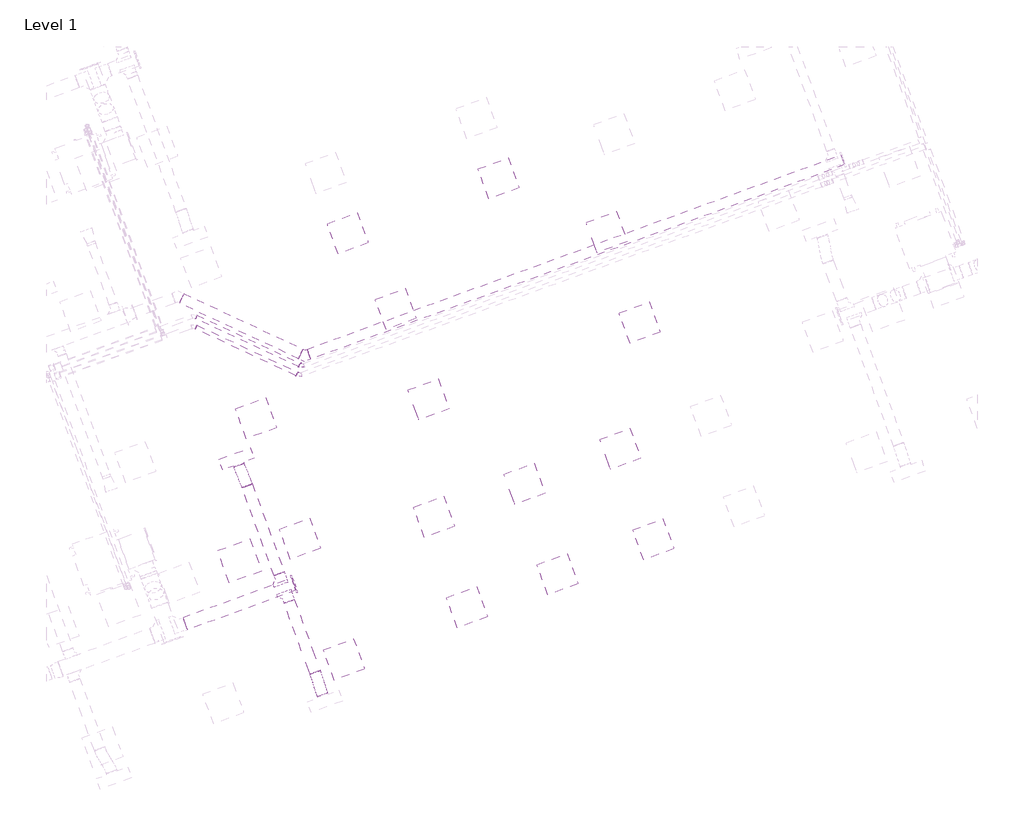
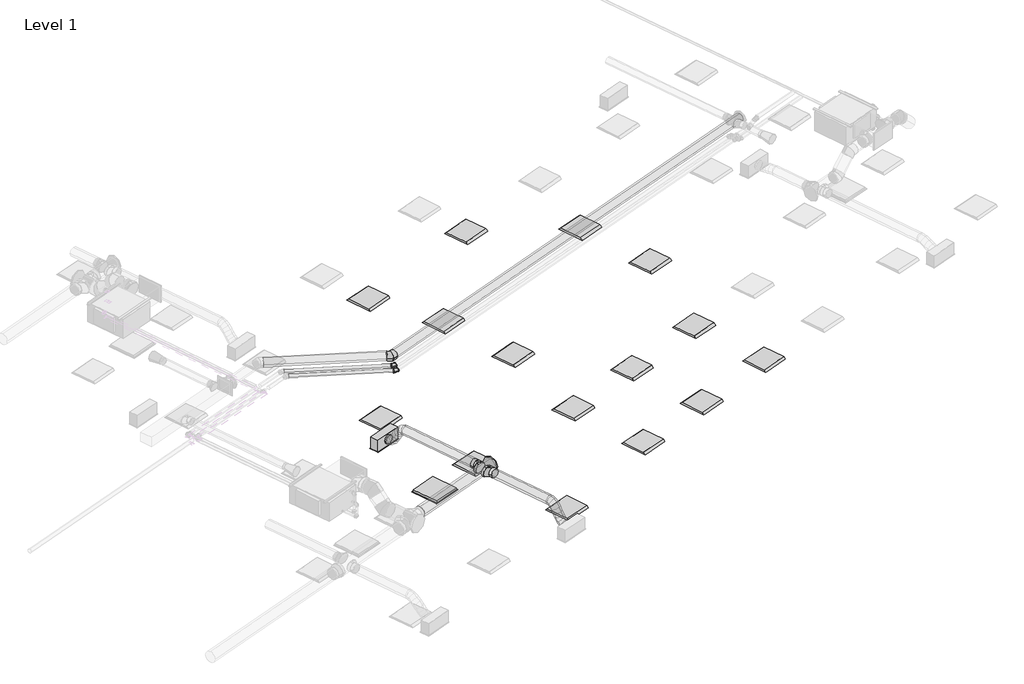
# One storey, part 24 of 30: 15 light fixtures, 7 duct segments, 4 duct fittings, 2 air terminals, 2 pipe fittings, 2 pipe segments.
"""IFC4 building model written with IfcOpenShell, lengths in millimetres."""

from ifc_helpers import new_model, si_unit, point, frame, frame_2d, origin, place, context, project, spatial, circle_curve, ellipse_curve, trimmed, segment, composite_curve, outline, extrude, transform, mapped, element, save
from ifc_brep_helpers import plane_surface, cylinder_surface, advanced_brep
from components import return_grille_rectangular_hosted_standard_7b12617c, supply_diffuser_with_plenum_linear_slot_hosted_7a86b773, dw144_round_blank_end_standard_9aa061e7, dw144_round_segmented_bend_slip_joint_standard_55afcd91, dw144_round_shoe_branch_slip_joint1_standard_2_559552f4, light_fixture_1c7c1157, light_fixture_b730b5ca, elbow_threaded_gmi_standard_9261818c

model = new_model("IFC4")

# Units and contexts
model_context = context("Model", 3, world=origin())
ifc_project = project(units=[si_unit("LENGTHUNIT", "METRE", prefix="MILLI")], contexts=[model_context])

# Site, building, storey
site = spatial("IfcSite", under=ifc_project)
building = spatial("IfcBuilding", under=site)
storey = spatial("IfcBuildingStorey", under=building, Name="Level 1", Elevation=3900.0)

# Air terminals
placement = place(None, origin())
return_grille_rectangular_hosted_standard_shape = return_grille_rectangular_hosted_standard_7b12617c(model_context)
element("IfcAirTerminal", 1, ObjectType="Return Grille - Rectangular - Hosted : Standard", at=placement, inside=storey, context=model_context, shape_type="MappedRepresentation", body=[
    mapped(return_grille_rectangular_hosted_standard_shape, transform((48064.0365319, 9235.5552547, 6500.0), x_axis=(0.939692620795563, 0.34202014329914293, 0.0), y_axis=(0.34202014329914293, -0.939692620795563, 0.0), z_axis=(0.0, 0.0, -1.0))),
])
supply_diffuser_with_plenum_linear_slot_hosted_shape = supply_diffuser_with_plenum_linear_slot_hosted_7a86b773(model_context)
element("IfcAirTerminal", 2, ObjectType="Supply Diffuser with Plenum - Linear Slot - Hosted : 24\" x 8\"-200 In Inlet  4-Slot", at=placement, inside=storey, context=model_context, shape_type="MappedRepresentation", body=[
    mapped(supply_diffuser_with_plenum_linear_slot_hosted_shape, transform((48007.2628307, 11142.0221269, 6500.0), x_axis=(0.9396926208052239, 0.3420201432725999, 0.0), y_axis=(0.3420201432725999, -0.9396926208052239, 0.0), z_axis=(0.0, 0.0, -1.0))),
])

# Duct fittings
dw144_round_blank_end_standard_shape = dw144_round_blank_end_standard_9aa061e7(model_context)
element("IfcDuctFitting", 3, ObjectType="DW144 Round Blank End : Standard", at=placement, inside=storey, context=model_context, shape_type="MappedRepresentation", body=[
    mapped(dw144_round_blank_end_standard_shape, transform((49072.7310347, 8798.1556694, 7052.2088531), x_axis=(0.9396926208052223, 0.3420201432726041, 0.0), y_axis=(-0.3420201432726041, 0.9396926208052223, 0.0), z_axis=(0.0, 0.0, 1.0))),
])
dw144_round_segmented_bend_slip_joint_standard_shape = dw144_round_segmented_bend_slip_joint_standard_55afcd91(model_context)
element("IfcDuctFitting", 4, ObjectType="DW144 Round Segmented Bend - Slip Joint : Standard", at=placement, inside=storey, context=model_context, shape_type="MappedRepresentation", body=[
    mapped(dw144_round_segmented_bend_slip_joint_standard_shape, transform((49279.3686987, 13067.8757559, 7000.0), x_axis=(0.9063077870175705, -0.42261826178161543, 0.0), y_axis=(0.42261826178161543, 0.9063077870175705, 0.0), z_axis=(0.0, 0.0, 1.0))),
])
dw144_round_shoe_branch_slip_joint1_standard_2_shape = dw144_round_shoe_branch_slip_joint1_standard_2_559552f4(model_context)
element("IfcDuctFitting", 5, ObjectType="DW144 Round Shoe Branch - Slip Joint1 : Standard 2", at=placement, inside=storey, context=model_context, shape_type="MappedRepresentation", body=[
    mapped(dw144_round_shoe_branch_slip_joint1_standard_2_shape, transform((48939.2384692, 8616.5461275, 7052.2088531), x_axis=(0.34202014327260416, -0.9396926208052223, 0.0), y_axis=(-0.9396926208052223, -0.34202014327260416, 0.0), z_axis=(0.0, 0.0, -1.0))),
])
element("IfcDuctFitting", 6, ObjectType="DW144 Round Shoe Branch - Slip Joint1 : Standard 2", at=placement, inside=storey, context=model_context, shape_type="MappedRepresentation", body=[
    mapped(dw144_round_shoe_branch_slip_joint1_standard_2_shape, transform((48853.7334333, 8851.4692827, 7052.2088531), x_axis=(-0.34202014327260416, 0.9396926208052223, 0.0), y_axis=(-0.9396926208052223, -0.34202014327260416, 0.0), z_axis=(0.0, 0.0, 1.0))),
])

# Duct segments
element("IfcDuctSegment", 7, ObjectType="DW144 Segmented Bend / Shoe Branch", at=placement, inside=storey, context=model_context, shape_type="SweptSolid", body=[
    extrude(outline(composite_curve([segment(trimmed(circle_curve(frame_2d((0.0, 125.0)), 125.0), [point((125.0, 125.0))], [point((0.0, 0.0))], False, "CARTESIAN"), True, "CONTINUOUS"), segment(trimmed(circle_curve(frame_2d((0.0, 125.0)), 125.0), [point((0.0, 0.0))], [point((-125.0, 125.0))], False, "CARTESIAN"), True, "CONTINUOUS"), segment(trimmed(circle_curve(frame_2d((0.0, 125.0)), 125.0), [point((-125.0, 125.0))], [point((0.0, 250.0))], False, "CARTESIAN"), True, "CONTINUOUS"), segment(trimmed(circle_curve(frame_2d((0.0, 125.0)), 125.0), [point((0.0, 250.0))], [point((125.0, 125.0))], False, "CARTESIAN"), True, "CONTINUOUS")], self_intersect=False)), frame((47047.5806818, 8061.0612212, 7177.2088531), z_axis=(0.9396926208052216, 0.34202014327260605, 0.0), x_axis=(0.34202014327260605, -0.9396926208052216, 0.0)), (0.0, 0.0, 1.0), 2155.1199914),
])
element("IfcDuctSegment", 8, ObjectType="DW144 Segmented Bend / Shoe Branch", at=placement, inside=storey, context=model_context, shape_type="SweptSolid", body=[
    extrude(outline(composite_curve([segment(trimmed(circle_curve(frame_2d((0.0, -100.0)), 100.0), [point((-100.0, -100.0))], [point((0.0, 0.0))], False, "CARTESIAN"), True, "CONTINUOUS"), segment(trimmed(circle_curve(frame_2d((0.0, -100.0)), 100.0), [point((0.0, 0.0))], [point((100.0, -100.0))], False, "CARTESIAN"), True, "CONTINUOUS"), segment(trimmed(circle_curve(frame_2d((0.0, -100.0)), 100.0), [point((100.0, -100.0))], [point((0.0, -200.0))], False, "CARTESIAN"), True, "CONTINUOUS"), segment(trimmed(circle_curve(frame_2d((0.0, -100.0)), 100.0), [point((0.0, -200.0))], [point((-100.0, -100.0))], False, "CARTESIAN"), True, "CONTINUOUS")], self_intersect=False)), frame((49472.7898927, 7150.6256391, 6952.2088531), z_axis=(-0.3420201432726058, 0.9396926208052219, 0.0), x_axis=(0.9396926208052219, 0.3420201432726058, 0.0)), (0.0, 0.0, 1.0), 1410.0),
])
element("IfcDuctSegment", 9, ObjectType="DW144 Segmented Bend / Shoe Branch", at=placement, inside=storey, context=model_context, shape_type="SweptSolid", body=[
    extrude(outline(composite_curve([segment(trimmed(circle_curve(frame_2d((0.0, 100.0)), 100.0), [point((99.9999999, 100.0))], [point((0.0, 0.0))], False, "CARTESIAN"), True, "CONTINUOUS"), segment(trimmed(circle_curve(frame_2d((0.0, 100.0)), 100.0), [point((0.0, 0.0))], [point((-100.0, 100.0))], False, "CARTESIAN"), True, "CONTINUOUS"), segment(trimmed(circle_curve(frame_2d((0.0, 100.0)), 100.0), [point((-100.0, 100.0))], [point((0.0, 200.0))], False, "CARTESIAN"), True, "CONTINUOUS"), segment(trimmed(circle_curve(frame_2d((0.0, 100.0)), 100.0), [point((0.0, 200.0))], [point((99.9999999, 100.0))], False, "CARTESIAN"), True, "CONTINUOUS")], self_intersect=False)), frame((48802.4304119, 8992.4231759, 7152.2088531), z_axis=(-0.3420201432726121, 0.9396926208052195, 0.0), x_axis=(0.9396926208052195, 0.3420201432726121, 0.0)), (0.0, 0.0, 1.0), 1749.637173),
])
element("IfcDuctSegment", 10, ObjectType="DW144 Segmented Bend / Shoe Branch", at=placement, inside=storey, context=model_context, shape_type="SweptSolid", body=[
    extrude(outline(composite_curve([segment(trimmed(circle_curve(frame_2d((0.0, 100.0)), 100.0), [point((100.0, 100.0))], [point((0.0, 0.0))], False, "CARTESIAN"), True, "CONTINUOUS"), segment(trimmed(circle_curve(frame_2d((0.0, 100.0)), 100.0), [point((0.0, 0.0))], [point((-99.9999999, 100.0))], False, "CARTESIAN"), True, "CONTINUOUS"), segment(trimmed(circle_curve(frame_2d((0.0, 100.0)), 100.0), [point((-99.9999999, 100.0))], [point((0.0, 200.0))], False, "CARTESIAN"), True, "CONTINUOUS"), segment(trimmed(circle_curve(frame_2d((0.0, 100.0)), 100.0), [point((0.0, 200.0))], [point((100.0, 100.0))], False, "CARTESIAN"), True, "CONTINUOUS")], self_intersect=False)), frame((49357.2153843, 13096.2096323, 7100.0), z_axis=(0.9396926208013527, 0.34202014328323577, 0.0), x_axis=(0.34202014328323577, -0.9396926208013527, 0.0)), (0.0, 0.0, 1.0), 10617.3976502),
])
element("IfcDuctSegment", 11, ObjectType="DW144 Segmented Bend / Shoe Branch", at=placement, inside=storey, context=model_context, shape_type="SweptSolid", body=[
    extrude(outline(composite_curve([segment(trimmed(circle_curve(frame_2d((0.0, 100.0)), 100.0), [point((100.0, 100.0))], [point((0.0, 0.0))], False, "CARTESIAN"), True, "CONTINUOUS"), segment(trimmed(circle_curve(frame_2d((0.0, 100.0)), 100.0), [point((0.0, 0.0))], [point((-100.0, 100.0))], False, "CARTESIAN"), True, "CONTINUOUS"), segment(trimmed(circle_curve(frame_2d((0.0, 100.0)), 100.0), [point((-100.0, 100.0))], [point((0.0, 200.0))], False, "CARTESIAN"), True, "CONTINUOUS"), segment(trimmed(circle_curve(frame_2d((0.0, 100.0)), 100.0), [point((0.0, 200.0))], [point((100.0, 100.0))], False, "CARTESIAN"), True, "CONTINUOUS")], self_intersect=False)), frame((49204.2877033, 13102.886599, 7100.0), z_axis=(-0.9063077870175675, 0.4226182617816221, 0.0), x_axis=(0.4226182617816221, 0.9063077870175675, 0.0)), (0.0, 0.0, 1.0), 2451.965434),
])
element("IfcDuctSegment", 12, ObjectType="Flex - Round", at=placement, inside=storey, context=model_context, shape_type="AdvancedBrep", body=[
    advanced_brep(
    [(49566.7591548, 7184.8276534, 7052.2088531), (49472.7898927, 7150.6256391, 6952.2088531), (49378.8206306, 7116.4236248, 7052.2088531), (49472.7898927, 7150.6256391, 7152.2088531), (49575.2669088, 7161.4527913, 7052.2088531), (49474.682573, 7145.4255426, 6952.2088531), (49386.9327094, 7094.1358714, 7052.2088531), (49487.5170452, 7110.1631201, 7152.2088531), (49707.918832, 6761.136828, 6654.4), (49613.9495699, 6726.9348137, 6754.4), (49519.9803078, 6692.7327994, 6654.4), (49613.9495699, 6726.9348137, 6554.4), (49590.1207356, 7119.0677072, 7034.7409086), (49478.8855369, 7133.4324732, 6947.2662117), (49401.1494635, 7053.568661, 7035.4900994), (49512.3846623, 7039.203895, 7122.9647962), (49608.7151444, 7063.8723428, 6989.1704029), (49490.5733359, 7098.7385855, 6918.6221758), (49419.330759, 6999.5995757, 6990.9320367), (49537.4725675, 6964.733333, 7061.4802639), (49624.2298513, 7015.46652, 6925.0520645), (49502.7970279, 7060.6007162, 6868.1047654), (49434.6486166, 6951.8079223, 6927.6272268), (49556.08144, 6906.6737261, 6984.574526), (49638.1848228, 6970.530717, 6851.8885314), (49515.9336588, 7018.3000163, 6799.2316521), (49448.5546397, 6907.0297358, 6854.7203217), (49570.8058037, 6859.2604365, 6907.377201), (49652.090846, 6925.7525305, 6778.9816263), (49530.6580225, 6970.8867267, 6722.0343271), (49462.5096112, 6862.0939328, 6781.5567886), (49583.9424347, 6816.9597366, 6838.5040877), (49667.4087035, 6877.9608771, 6715.6768164), (49549.2668951, 6912.8271198, 6645.1285892), (49478.0243182, 6813.68811, 6717.4384502), (49596.1661266, 6778.8218673, 6787.9866774), (49685.589999, 6823.9917918, 6671.1187537), (49574.3548002, 6838.3565578, 6583.6440569), (49496.6187269, 6758.4927456, 6671.8679446), (49607.8539257, 6744.1279796, 6759.3426414), (49699.8067532, 6783.4245814, 6654.4), (49599.2224174, 6767.3973327, 6554.4), (49511.4725537, 6716.1076615, 6654.4), (49612.0568895, 6732.1349102, 6754.4)],
    [
        (0, 1, circle_curve(frame((49472.7898927, 7150.6256391, 7052.2088531), z_axis=(-0.3420201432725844, 0.9396926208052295, 0.0), x_axis=(0.9396926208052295, 0.3420201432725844, 0.0)), 100.0)),
        (1, 2, circle_curve(frame((49472.7898927, 7150.6256391, 7052.2088531), z_axis=(-0.3420201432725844, 0.9396926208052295, 0.0), x_axis=(0.9396926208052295, 0.3420201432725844, 0.0)), 100.0)),
        (2, 3, circle_curve(frame((49472.7898927, 7150.6256391, 7052.2088531), z_axis=(-0.3420201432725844, 0.9396926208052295, 0.0), x_axis=(0.9396926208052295, 0.3420201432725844, 0.0)), 100.0)),
        (3, 0, circle_curve(frame((49472.7898927, 7150.6256391, 7052.2088531), z_axis=(-0.3420201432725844, 0.9396926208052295, 0.0), x_axis=(0.9396926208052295, 0.3420201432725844, 0.0)), 100.0)),
        (0, 4),
        (4, 5, ellipse_curve(frame((49481.0998091, 7127.7943313, 7052.2088531), z_axis=(-0.3308066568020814, 0.92550590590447, 0.184406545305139), x_axis=(-0.09155976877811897, 0.16300955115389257, -0.9823668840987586)), 101.7466222, 100.0)),
        (5, 1),
        (5, 6, ellipse_curve(frame((49481.0998091, 7127.7943313, 7052.2088531), z_axis=(-0.3308066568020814, 0.92550590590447, 0.184406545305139), x_axis=(-0.09155976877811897, 0.16300955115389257, -0.9823668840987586)), 101.7466222, 100.0)),
        (6, 2),
        (6, 7, ellipse_curve(frame((49481.0998091, 7127.7943313, 7052.2088531), z_axis=(-0.3308066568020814, 0.92550590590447, 0.184406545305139), x_axis=(-0.09155976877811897, 0.16300955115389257, -0.9823668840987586)), 101.7466222, 100.0)),
        (7, 3),
        (7, 4, ellipse_curve(frame((49481.0998091, 7127.7943313, 7052.2088531), z_axis=(-0.3308066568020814, 0.92550590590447, 0.184406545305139), x_axis=(-0.09155976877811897, 0.16300955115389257, -0.9823668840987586)), 101.7466222, 100.0)),
        (8, 9, circle_curve(frame((49613.9495699, 6726.9348137, 6654.4), z_axis=(0.342020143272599, -0.9396926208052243, 0.0), x_axis=(0.9396926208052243, 0.342020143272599, 0.0)), 100.0)),
        (9, 10, circle_curve(frame((49613.9495699, 6726.9348137, 6654.4), z_axis=(0.342020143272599, -0.9396926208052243, 0.0), x_axis=(0.9396926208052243, 0.342020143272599, 0.0)), 100.0)),
        (10, 11, circle_curve(frame((49613.9495699, 6726.9348137, 6654.4), z_axis=(0.342020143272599, -0.9396926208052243, 0.0), x_axis=(0.9396926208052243, 0.342020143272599, 0.0)), 100.0)),
        (11, 8, circle_curve(frame((49613.9495699, 6726.9348137, 6654.4), z_axis=(0.342020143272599, -0.9396926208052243, 0.0), x_axis=(0.9396926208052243, 0.342020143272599, 0.0)), 100.0)),
        (4, 12),
        (12, 13, ellipse_curve(frame((49495.6350996, 7086.3181841, 7035.115504), z_axis=(-0.28287056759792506, 0.8217677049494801, 0.4946534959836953), x_axis=(-0.19442344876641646, 0.45588500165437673, -0.8685438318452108)), 101.0841691, 100.0)),
        (13, 5),
        (13, 14, ellipse_curve(frame((49495.6350996, 7086.3181841, 7035.115504), z_axis=(-0.28287056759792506, 0.8217677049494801, 0.4946534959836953), x_axis=(-0.19442344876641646, 0.45588500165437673, -0.8685438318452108)), 101.0841691, 100.0)),
        (14, 6),
        (14, 15, ellipse_curve(frame((49495.6350996, 7086.3181841, 7035.115504), z_axis=(-0.28287056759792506, 0.8217677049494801, 0.4946534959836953), x_axis=(-0.19442344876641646, 0.45588500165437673, -0.8685438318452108)), 101.0841691, 100.0)),
        (15, 7),
        (15, 12, ellipse_curve(frame((49495.6350996, 7086.3181841, 7035.115504), z_axis=(-0.28287056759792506, 0.8217677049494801, 0.4946534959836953), x_axis=(-0.19442344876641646, 0.45588500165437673, -0.8685438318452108)), 101.0841691, 100.0)),
        (12, 16),
        (16, 17, ellipse_curve(frame((49514.0229517, 7031.7359593, 6990.0512198), z_axis=(-0.2220799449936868, 0.6736938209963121, 0.7048525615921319), x_axis=(-0.2617188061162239, 0.6551869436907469, -0.7086842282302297)), 100.7049109, 100.0)),
        (17, 13),
        (17, 18, ellipse_curve(frame((49514.0229517, 7031.7359593, 6990.0512198), z_axis=(-0.2220799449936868, 0.6736938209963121, 0.7048525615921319), x_axis=(-0.2617188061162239, 0.6551869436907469, -0.7086842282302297)), 100.7049109, 100.0)),
        (18, 14),
        (18, 19, ellipse_curve(frame((49514.0229517, 7031.7359593, 6990.0512198), z_axis=(-0.2220799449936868, 0.6736938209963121, 0.7048525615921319), x_axis=(-0.2617188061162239, 0.6551869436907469, -0.7086842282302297)), 100.7049109, 100.0)),
        (19, 15),
        (19, 16, ellipse_curve(frame((49514.0229517, 7031.7359593, 6990.0512198), z_axis=(-0.2220799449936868, 0.6736938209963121, 0.7048525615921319), x_axis=(-0.2617188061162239, 0.6551869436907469, -0.7086842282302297)), 100.7049109, 100.0)),
        (16, 20),
        (20, 21, ellipse_curve(frame((49529.439234, 6983.6372211, 6926.3396457), z_axis=(-0.17523323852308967, 0.5547629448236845, 0.8133457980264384), x_axis=(-0.29514326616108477, 0.7585323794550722, -0.5809639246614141)), 100.1224813, 100.0)),
        (21, 17),
        (21, 22, ellipse_curve(frame((49529.439234, 6983.6372211, 6926.3396457), z_axis=(-0.17523323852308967, 0.5547629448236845, 0.8133457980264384), x_axis=(-0.29514326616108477, 0.7585323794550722, -0.5809639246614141)), 100.1224813, 100.0)),
        (22, 18),
        (22, 23, ellipse_curve(frame((49529.439234, 6983.6372211, 6926.3396457), z_axis=(-0.17523323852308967, 0.5547629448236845, 0.8133457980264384), x_axis=(-0.29514326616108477, 0.7585323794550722, -0.5809639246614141)), 100.1224813, 100.0)),
        (23, 19),
        (23, 20, ellipse_curve(frame((49529.439234, 6983.6372211, 6926.3396457), z_axis=(-0.17523323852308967, 0.5547629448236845, 0.8133457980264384), x_axis=(-0.29514326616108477, 0.7585323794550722, -0.5809639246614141)), 100.1224813, 100.0)),
        (20, 24),
        (24, 25, circle_curve(frame((49543.3697313, 6938.7802264, 6853.3044266), z_axis=(-0.16042454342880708, 0.5165761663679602, 0.8410784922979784), x_axis=(0.9481509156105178, 0.3175049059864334, -0.014158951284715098)), 100.0)),
        (25, 21),
        (25, 26, circle_curve(frame((49543.3697313, 6938.7802264, 6853.3044266), z_axis=(-0.16042454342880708, 0.5165761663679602, 0.8410784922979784), x_axis=(0.9481509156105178, 0.3175049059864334, -0.014158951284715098)), 100.0)),
        (26, 22),
        (26, 27, circle_curve(frame((49543.3697313, 6938.7802264, 6853.3044266), z_axis=(-0.16042454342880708, 0.5165761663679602, 0.8410784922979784), x_axis=(0.9481509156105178, 0.3175049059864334, -0.014158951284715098)), 100.0)),
        (27, 23),
        (27, 24, circle_curve(frame((49543.3697313, 6938.7802264, 6853.3044266), z_axis=(-0.16042454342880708, 0.5165761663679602, 0.8410784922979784), x_axis=(0.9481509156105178, 0.3175049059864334, -0.014158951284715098)), 100.0)),
        (24, 28),
        (28, 29, ellipse_curve(frame((49557.3002286, 6893.9232317, 6780.2692074), z_axis=(-0.175233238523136, 0.5547629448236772, 0.8133457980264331), x_axis=(0.295143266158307, -0.7585323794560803, 0.5809639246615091)), 100.1224813, 100.0)),
        (29, 25),
        (29, 30, ellipse_curve(frame((49557.3002286, 6893.9232317, 6780.2692074), z_axis=(-0.175233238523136, 0.5547629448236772, 0.8133457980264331), x_axis=(0.295143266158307, -0.7585323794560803, 0.5809639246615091)), 100.1224813, 100.0)),
        (30, 26),
        (30, 31, ellipse_curve(frame((49557.3002286, 6893.9232317, 6780.2692074), z_axis=(-0.175233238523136, 0.5547629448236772, 0.8133457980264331), x_axis=(0.295143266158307, -0.7585323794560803, 0.5809639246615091)), 100.1224813, 100.0)),
        (31, 27),
        (31, 28, ellipse_curve(frame((49557.3002286, 6893.9232317, 6780.2692074), z_axis=(-0.175233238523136, 0.5547629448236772, 0.8133457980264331), x_axis=(0.295143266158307, -0.7585323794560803, 0.5809639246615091)), 100.1224813, 100.0)),
        (28, 32),
        (32, 33, ellipse_curve(frame((49572.7165108, 6845.8244935, 6716.5576333), z_axis=(-0.22207994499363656, 0.6736938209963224, 0.7048525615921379), x_axis=(0.2617188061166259, -0.6551869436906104, 0.7086842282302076)), 100.7049109, 100.0)),
        (33, 29),
        (33, 34, ellipse_curve(frame((49572.7165108, 6845.8244935, 6716.5576333), z_axis=(-0.22207994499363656, 0.6736938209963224, 0.7048525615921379), x_axis=(0.2617188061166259, -0.6551869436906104, 0.7086842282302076)), 100.7049109, 100.0)),
        (34, 30),
        (34, 35, ellipse_curve(frame((49572.7165108, 6845.8244935, 6716.5576333), z_axis=(-0.22207994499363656, 0.6736938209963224, 0.7048525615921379), x_axis=(0.2617188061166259, -0.6551869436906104, 0.7086842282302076)), 100.7049109, 100.0)),
        (35, 31),
        (35, 32, ellipse_curve(frame((49572.7165108, 6845.8244935, 6716.5576333), z_axis=(-0.22207994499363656, 0.6736938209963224, 0.7048525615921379), x_axis=(0.2617188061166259, -0.6551869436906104, 0.7086842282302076)), 100.7049109, 100.0)),
        (32, 36),
        (36, 37, ellipse_curve(frame((49591.104363, 6791.2422687, 6671.4933492), z_axis=(-0.28287056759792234, 0.8217677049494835, 0.4946534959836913), x_axis=(0.1944234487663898, -0.45588500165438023, 0.8685438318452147)), 101.0841691, 100.0)),
        (37, 33),
        (37, 38, ellipse_curve(frame((49591.104363, 6791.2422687, 6671.4933492), z_axis=(-0.28287056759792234, 0.8217677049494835, 0.4946534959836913), x_axis=(0.1944234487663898, -0.45588500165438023, 0.8685438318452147)), 101.0841691, 100.0)),
        (38, 34),
        (38, 39, ellipse_curve(frame((49591.104363, 6791.2422687, 6671.4933492), z_axis=(-0.28287056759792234, 0.8217677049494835, 0.4946534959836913), x_axis=(0.1944234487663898, -0.45588500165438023, 0.8685438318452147)), 101.0841691, 100.0)),
        (39, 35),
        (39, 36, ellipse_curve(frame((49591.104363, 6791.2422687, 6671.4933492), z_axis=(-0.28287056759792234, 0.8217677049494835, 0.4946534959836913), x_axis=(0.1944234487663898, -0.45588500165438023, 0.8685438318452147)), 101.0841691, 100.0)),
        (36, 40),
        (40, 41, ellipse_curve(frame((49605.6396534, 6749.7661215, 6654.4), z_axis=(-0.33080665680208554, 0.9255059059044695, 0.18440654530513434), x_axis=(0.09155976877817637, -0.16300955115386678, 0.9823668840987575)), 101.7466222, 100.0)),
        (41, 37),
        (41, 42, ellipse_curve(frame((49605.6396534, 6749.7661215, 6654.4), z_axis=(-0.33080665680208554, 0.9255059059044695, 0.18440654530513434), x_axis=(0.09155976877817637, -0.16300955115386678, 0.9823668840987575)), 101.7466222, 100.0)),
        (42, 38),
        (42, 43, ellipse_curve(frame((49605.6396534, 6749.7661215, 6654.4), z_axis=(-0.33080665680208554, 0.9255059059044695, 0.18440654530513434), x_axis=(0.09155976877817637, -0.16300955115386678, 0.9823668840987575)), 101.7466222, 100.0)),
        (43, 39),
        (43, 40, ellipse_curve(frame((49605.6396534, 6749.7661215, 6654.4), z_axis=(-0.33080665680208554, 0.9255059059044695, 0.18440654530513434), x_axis=(0.09155976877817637, -0.16300955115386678, 0.9823668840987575)), 101.7466222, 100.0)),
        (40, 8),
        (11, 41),
        (10, 42),
        (9, 43),
    ],
    [
        plane_surface(frame((49472.7898927, 7150.6256391, 6952.2088531), z_axis=(-0.34202014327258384, 0.9396926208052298, 0.0), x_axis=(0.9396926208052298, 0.34202014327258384, 0.0))),
        cylinder_surface(frame((49472.7898927, 7150.6256391, 7052.2088531), z_axis=(-0.3420201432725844, 0.9396926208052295, 0.0), x_axis=(0.9396926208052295, 0.3420201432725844, 0.0)), 100.0),
        plane_surface(frame((49613.9495699, 6726.9348137, 6554.4), z_axis=(0.3420201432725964, -0.9396926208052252, 0.0), x_axis=(0.9396926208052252, 0.3420201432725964, 0.0))),
        cylinder_surface(frame((49481.0998091, 7127.7943313, 7052.2088531), z_axis=(-0.3082356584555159, 0.8795440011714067, 0.3624819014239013), x_axis=(0.9434539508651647, 0.3314969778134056, -0.002096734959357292)), 100.0),
        cylinder_surface(frame((49495.6350996, 7086.3181841, 7035.115504), z_axis=(-0.2514376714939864, 0.7463638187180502, 0.6162143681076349), x_axis=(0.9460003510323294, 0.32409942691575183, -0.00654960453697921)), 100.0),
        cylinder_surface(frame((49514.0229517, 7031.7359593, 6990.0512198), z_axis=(-0.18961320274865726, 0.5915924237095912, 0.7836231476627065), x_axis=(0.9476169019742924, 0.3191955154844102, -0.011680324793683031)), 100.0),
        cylinder_surface(frame((49529.439234, 6983.6372211, 6926.3396457), z_axis=(-0.16042454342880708, 0.5165761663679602, 0.8410784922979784), x_axis=(0.9481509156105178, 0.3175049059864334, -0.014158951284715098)), 100.0),
        cylinder_surface(frame((49543.3697313, 6938.7802264, 6853.3044266), z_axis=(-0.16042454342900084, 0.5165761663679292, 0.8410784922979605), x_axis=(0.9481509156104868, 0.3175049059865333, -0.01415895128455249)), 100.0),
        cylinder_surface(frame((49557.3002286, 6893.9232317, 6780.2692074), z_axis=(-0.18961320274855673, 0.5915924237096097, 0.783623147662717), x_axis=(0.9476169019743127, 0.31919551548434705, -0.011680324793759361)), 100.0),
        cylinder_surface(frame((49572.7165108, 6845.8244935, 6716.5576333), z_axis=(-0.2514376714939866, 0.7463638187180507, 0.6162143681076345), x_axis=(0.9460003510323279, 0.3240994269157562, -0.006549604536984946)), 100.0),
        cylinder_surface(frame((49591.104363, 6791.2422687, 6671.4933492), z_axis=(-0.30823565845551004, 0.8795440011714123, 0.36248190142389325), x_axis=(0.943453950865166, 0.331496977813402, -0.0020967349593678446)), 100.0),
        cylinder_surface(frame((49605.6396534, 6749.7661215, 6654.4), z_axis=(-0.342020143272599, 0.9396926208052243, 0.0), x_axis=(0.9396926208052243, 0.342020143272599, 0.0)), 100.0),
    ],
    [
        (0, [[1, 2, 3, 4]]),
        (1, [[-1, 5, 6, 7]]),
        (1, [[-2, -7, 8, 9]]),
        (1, [[-3, -9, 10, 11]]),
        (1, [[-4, -11, 12, -5]]),
        (2, [[13, 14, 15, 16]]),
        (3, [[-6, 17, 18, 19]]),
        (3, [[-8, -19, 20, 21]]),
        (3, [[-10, -21, 22, 23]]),
        (3, [[-12, -23, 24, -17]]),
        (4, [[-18, 25, 26, 27]]),
        (4, [[-20, -27, 28, 29]]),
        (4, [[-22, -29, 30, 31]]),
        (4, [[-24, -31, 32, -25]]),
        (5, [[-26, 33, 34, 35]]),
        (5, [[-28, -35, 36, 37]]),
        (5, [[-30, -37, 38, 39]]),
        (5, [[-32, -39, 40, -33]]),
        (6, [[-34, 41, 42, 43]]),
        (6, [[-36, -43, 44, 45]]),
        (6, [[-38, -45, 46, 47]]),
        (6, [[-40, -47, 48, -41]]),
        (7, [[-42, 49, 50, 51]]),
        (7, [[-44, -51, 52, 53]]),
        (7, [[-46, -53, 54, 55]]),
        (7, [[-48, -55, 56, -49]]),
        (8, [[-50, 57, 58, 59]]),
        (8, [[-52, -59, 60, 61]]),
        (8, [[-54, -61, 62, 63]]),
        (8, [[-56, -63, 64, -57]]),
        (9, [[-58, 65, 66, 67]]),
        (9, [[-60, -67, 68, 69]]),
        (9, [[-62, -69, 70, 71]]),
        (9, [[-64, -71, 72, -65]]),
        (10, [[-66, 73, 74, 75]]),
        (10, [[-68, -75, 76, 77]]),
        (10, [[-70, -77, 78, 79]]),
        (10, [[-72, -79, 80, -73]]),
        (11, [[-74, 81, -16, 82]]),
        (11, [[-76, -82, -15, 83]]),
        (11, [[-78, -83, -14, 84]]),
        (11, [[-80, -84, -13, -81]]),
    ],
),
])
element("IfcDuctSegment", 13, ObjectType="Flex - Round", at=placement, inside=storey, context=model_context, shape_type="AdvancedBrep", body=[
    advanced_brep(
    [(48110.0499932, 10602.3423021, 7052.2088531), (48204.0192553, 10636.5443165, 6952.2088531), (48297.9885173, 10670.7463308, 7052.2088531), (48204.0192553, 10636.5443165, 7152.2088531), (48101.5686291, 10625.6446584, 7052.2088531), (48202.3896405, 10641.0216463, 6952.2088531), (48289.0806715, 10695.220436, 7052.2088531), (48188.2596602, 10679.8434481, 7152.2088531), (47956.7301268, 10988.4791498, 6654.4), (48050.6993889, 11022.6811641, 6754.4), (48144.668651, 11056.8831784, 6654.4), (48050.6993889, 11022.6811641, 6554.4), (48087.8832132, 10661.7737734, 7035.5371064), (48199.8243832, 10647.7938538, 6949.0838242), (48274.7030901, 10733.1768486, 7034.6939016), (48162.7619202, 10747.1567682, 7121.1471837), (48068.4371635, 10711.2705221, 6990.994308), (48187.6935535, 10678.6709026, 6921.2971474), (48254.8017103, 10783.8325657, 6989.1081317), (48135.5453203, 10816.4321852, 7058.8052923), (48050.9156642, 10753.8253834, 6927.7063855), (48173.9407436, 10712.0726628, 6871.6217884), (48237.0456319, 10826.9571546, 6924.9729059), (48114.0205525, 10868.7098752, 6981.057503), (48034.3242746, 10792.9762136, 6854.8027088), (48158.3112544, 10748.9536892, 6802.9447665), (48220.3943696, 10866.249267, 6851.8061444), (48096.4073898, 10910.2717914, 6903.6640866), (48017.6730123, 10832.2683259, 6781.6359472), (48140.6980917, 10790.5156053, 6725.5513502), (48203.80298, 10905.4000971, 6778.9024676), (48080.7779006, 10947.1528177, 6834.9870647), (47999.9169339, 10875.3929148, 6717.5007215), (48119.1733239, 10842.7932954, 6647.8035608), (48186.2814807, 10947.9549585, 6715.6145451), (48067.0250907, 10980.5545779, 6785.3117058), (47980.0155541, 10926.048632, 6671.9149515), (48091.956724, 10912.0687123, 6585.4616694), (48166.835431, 10997.4517071, 6671.0717468), (48054.894261, 11011.4316268, 6757.5250289), (47965.6379726, 10964.0050446, 6654.4), (48066.458984, 10979.3820325, 6554.4), (48153.1500151, 11033.5808221, 6654.4), (48052.3290037, 11018.2038343, 6754.4)],
    [
        (0, 1, circle_curve(frame((48204.0192553, 10636.5443165, 7052.2088531), z_axis=(0.3420201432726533, -0.9396926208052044, 0.0), x_axis=(-0.9396926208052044, -0.3420201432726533, 0.0)), 100.0)),
        (1, 2, circle_curve(frame((48204.0192553, 10636.5443165, 7052.2088531), z_axis=(0.3420201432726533, -0.9396926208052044, 0.0), x_axis=(-0.9396926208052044, -0.3420201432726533, 0.0)), 100.0)),
        (2, 3, circle_curve(frame((48204.0192553, 10636.5443165, 7052.2088531), z_axis=(0.3420201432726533, -0.9396926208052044, 0.0), x_axis=(-0.9396926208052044, -0.3420201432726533, 0.0)), 100.0)),
        (3, 0, circle_curve(frame((48204.0192553, 10636.5443165, 7052.2088531), z_axis=(0.3420201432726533, -0.9396926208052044, 0.0), x_axis=(-0.9396926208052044, -0.3420201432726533, 0.0)), 100.0)),
        (0, 4),
        (4, 5, ellipse_curve(frame((48195.3246503, 10660.4325472, 7052.2088531), z_axis=(0.3406799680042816, -0.9181585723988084, 0.20229185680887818), x_axis=(0.04145645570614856, -0.2002836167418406, -0.9788604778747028)), 102.1131034, 100.0)),
        (5, 1),
        (5, 6, ellipse_curve(frame((48195.3246503, 10660.4325472, 7052.2088531), z_axis=(0.3406799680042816, -0.9181585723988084, 0.20229185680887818), x_axis=(0.04145645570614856, -0.2002836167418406, -0.9788604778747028)), 102.1131034, 100.0)),
        (6, 2),
        (6, 7, ellipse_curve(frame((48195.3246503, 10660.4325472, 7052.2088531), z_axis=(0.3406799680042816, -0.9181585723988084, 0.20229185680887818), x_axis=(0.04145645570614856, -0.2002836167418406, -0.9788604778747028)), 102.1131034, 100.0)),
        (7, 3),
        (7, 4, ellipse_curve(frame((48195.3246503, 10660.4325472, 7052.2088531), z_axis=(0.3406799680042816, -0.9181585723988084, 0.20229185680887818), x_axis=(0.04145645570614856, -0.2002836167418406, -0.9788604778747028)), 102.1131034, 100.0)),
        (8, 9, circle_curve(frame((48050.6993889, 11022.6811641, 6654.4), z_axis=(-0.3420201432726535, 0.9396926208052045, 0.0), x_axis=(-0.9396926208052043, -0.34202014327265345, 0.0)), 100.0)),
        (9, 10, circle_curve(frame((48050.6993889, 11022.6811641, 6654.4), z_axis=(-0.3420201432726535, 0.9396926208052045, 0.0), x_axis=(-0.9396926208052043, -0.34202014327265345, 0.0)), 100.0)),
        (10, 11, circle_curve(frame((48050.6993889, 11022.6811641, 6654.4), z_axis=(-0.3420201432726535, 0.9396926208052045, 0.0), x_axis=(-0.9396926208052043, -0.34202014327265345, 0.0)), 100.0)),
        (11, 8, circle_curve(frame((48050.6993889, 11022.6811641, 6654.4), z_axis=(-0.3420201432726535, 0.9396926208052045, 0.0), x_axis=(-0.9396926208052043, -0.34202014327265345, 0.0)), 100.0)),
        (4, 12),
        (12, 13, ellipse_curve(frame((48181.2931517, 10697.475311, 7035.115504), z_axis=(0.30599472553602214, -0.794412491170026, 0.524667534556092), x_axis=(0.15539854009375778, -0.5020333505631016, -0.8507724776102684)), 101.0608618, 100.0)),
        (13, 5),
        (13, 14, ellipse_curve(frame((48181.2931517, 10697.475311, 7035.115504), z_axis=(0.30599472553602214, -0.794412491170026, 0.524667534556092), x_axis=(0.15539854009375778, -0.5020333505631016, -0.8507724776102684)), 101.0608618, 100.0)),
        (14, 6),
        (14, 15, ellipse_curve(frame((48181.2931517, 10697.475311, 7035.115504), z_axis=(0.30599472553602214, -0.794412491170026, 0.524667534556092), x_axis=(0.15539854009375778, -0.5020333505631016, -0.8507724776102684)), 101.0608618, 100.0)),
        (15, 7),
        (15, 12, ellipse_curve(frame((48181.2931517, 10697.475311, 7035.115504), z_axis=(0.30599472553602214, -0.794412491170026, 0.524667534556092), x_axis=(0.15539854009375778, -0.5020333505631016, -0.8507724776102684)), 101.0608618, 100.0)),
        (12, 16),
        (16, 17, ellipse_curve(frame((48161.6194369, 10747.5515439, 6990.0512198), z_axis=(0.2540238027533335, -0.633421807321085, 0.7309231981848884), x_axis=(0.2307669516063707, -0.694194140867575, -0.681792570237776)), 100.7554605, 100.0)),
        (17, 13),
        (17, 18, ellipse_curve(frame((48161.6194369, 10747.5515439, 6990.0512198), z_axis=(0.2540238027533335, -0.633421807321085, 0.7309231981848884), x_axis=(0.2307669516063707, -0.694194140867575, -0.681792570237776)), 100.7554605, 100.0)),
        (18, 14),
        (18, 19, ellipse_curve(frame((48161.6194369, 10747.5515439, 6990.0512198), z_axis=(0.2540238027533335, -0.633421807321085, 0.7309231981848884), x_axis=(0.2307669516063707, -0.694194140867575, -0.681792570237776)), 100.7554605, 100.0)),
        (19, 15),
        (19, 16, ellipse_curve(frame((48161.6194369, 10747.5515439, 6990.0512198), z_axis=(0.2540238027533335, -0.633421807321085, 0.7309231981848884), x_axis=(0.2307669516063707, -0.694194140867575, -0.681792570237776)), 100.7554605, 100.0)),
        (16, 20),
        (20, 21, ellipse_curve(frame((48143.980648, 10790.391269, 6926.3396457), z_axis=(0.21051679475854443, -0.5044946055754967, 0.8373576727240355), x_axis=(0.27104272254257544, -0.7928517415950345, -0.545822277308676)), 100.1273114, 100.0)),
        (21, 17),
        (21, 22, ellipse_curve(frame((48143.980648, 10790.391269, 6926.3396457), z_axis=(0.21051679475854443, -0.5044946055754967, 0.8373576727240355), x_axis=(0.27104272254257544, -0.7928517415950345, -0.545822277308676)), 100.1273114, 100.0)),
        (22, 18),
        (22, 23, ellipse_curve(frame((48143.980648, 10790.391269, 6926.3396457), z_axis=(0.21051679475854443, -0.5044946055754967, 0.8373576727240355), x_axis=(0.27104272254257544, -0.7928517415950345, -0.545822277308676)), 100.1273114, 100.0)),
        (23, 19),
        (23, 20, ellipse_curve(frame((48143.980648, 10790.391269, 6926.3396457), z_axis=(0.21051679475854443, -0.5044946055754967, 0.8373576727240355), x_axis=(0.27104272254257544, -0.7928517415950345, -0.545822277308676)), 100.1273114, 100.0)),
        (20, 24),
        (24, 25, circle_curve(frame((48127.3593221, 10829.6127403, 6853.3044266), z_axis=(0.19658530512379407, -0.4638838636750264, 0.8638089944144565), x_axis=(-0.9303504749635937, -0.36636526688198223, 0.01498282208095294)), 100.0)),
        (25, 21),
        (25, 26, circle_curve(frame((48127.3593221, 10829.6127403, 6853.3044266), z_axis=(0.19658530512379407, -0.4638838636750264, 0.8638089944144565), x_axis=(-0.9303504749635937, -0.36636526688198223, 0.01498282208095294)), 100.0)),
        (26, 22),
        (26, 27, circle_curve(frame((48127.3593221, 10829.6127403, 6853.3044266), z_axis=(0.19658530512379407, -0.4638838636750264, 0.8638089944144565), x_axis=(-0.9303504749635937, -0.36636526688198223, 0.01498282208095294)), 100.0)),
        (27, 23),
        (27, 24, circle_curve(frame((48127.3593221, 10829.6127403, 6853.3044266), z_axis=(0.19658530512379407, -0.4638838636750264, 0.8638089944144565), x_axis=(-0.9303504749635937, -0.36636526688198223, 0.01498282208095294)), 100.0)),
        (24, 28),
        (28, 29, ellipse_curve(frame((48110.7379962, 10868.8342115, 6780.2692074), z_axis=(0.21051679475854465, -0.5044946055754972, 0.837357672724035), x_axis=(-0.2710427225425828, 0.7928517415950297, 0.5458222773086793)), 100.1273114, 100.0)),
        (29, 25),
        (29, 30, ellipse_curve(frame((48110.7379962, 10868.8342115, 6780.2692074), z_axis=(0.21051679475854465, -0.5044946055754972, 0.837357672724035), x_axis=(-0.2710427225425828, 0.7928517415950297, 0.5458222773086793)), 100.1273114, 100.0)),
        (30, 26),
        (30, 31, ellipse_curve(frame((48110.7379962, 10868.8342115, 6780.2692074), z_axis=(0.21051679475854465, -0.5044946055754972, 0.837357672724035), x_axis=(-0.2710427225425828, 0.7928517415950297, 0.5458222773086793)), 100.1273114, 100.0)),
        (31, 27),
        (31, 28, ellipse_curve(frame((48110.7379962, 10868.8342115, 6780.2692074), z_axis=(0.21051679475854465, -0.5044946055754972, 0.837357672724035), x_axis=(-0.2710427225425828, 0.7928517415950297, 0.5458222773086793)), 100.1273114, 100.0)),
        (28, 32),
        (32, 33, ellipse_curve(frame((48093.0992073, 10911.6739366, 6716.5576333), z_axis=(0.2540238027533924, -0.633421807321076, 0.7309231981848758), x_axis=(-0.23076695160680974, 0.6941941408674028, 0.6817925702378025)), 100.7554605, 100.0)),
        (33, 29),
        (33, 34, ellipse_curve(frame((48093.0992073, 10911.6739366, 6716.5576333), z_axis=(0.2540238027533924, -0.633421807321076, 0.7309231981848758), x_axis=(-0.23076695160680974, 0.6941941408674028, 0.6817925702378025)), 100.7554605, 100.0)),
        (34, 30),
        (34, 35, ellipse_curve(frame((48093.0992073, 10911.6739366, 6716.5576333), z_axis=(0.2540238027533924, -0.633421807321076, 0.7309231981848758), x_axis=(-0.23076695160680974, 0.6941941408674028, 0.6817925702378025)), 100.7554605, 100.0)),
        (35, 31),
        (35, 32, ellipse_curve(frame((48093.0992073, 10911.6739366, 6716.5576333), z_axis=(0.2540238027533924, -0.633421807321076, 0.7309231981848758), x_axis=(-0.23076695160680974, 0.6941941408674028, 0.6817925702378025)), 100.7554605, 100.0)),
        (32, 36),
        (36, 37, ellipse_curve(frame((48073.4254925, 10961.7501695, 6671.4933492), z_axis=(0.30599472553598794, -0.7944124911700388, 0.5246675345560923), x_axis=(-0.1553985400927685, 0.5020333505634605, 0.8507724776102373)), 101.0608618, 100.0)),
        (37, 33),
        (37, 38, ellipse_curve(frame((48073.4254925, 10961.7501695, 6671.4933492), z_axis=(0.30599472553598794, -0.7944124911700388, 0.5246675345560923), x_axis=(-0.1553985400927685, 0.5020333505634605, 0.8507724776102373)), 101.0608618, 100.0)),
        (38, 34),
        (38, 39, ellipse_curve(frame((48073.4254925, 10961.7501695, 6671.4933492), z_axis=(0.30599472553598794, -0.7944124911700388, 0.5246675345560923), x_axis=(-0.1553985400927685, 0.5020333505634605, 0.8507724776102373)), 101.0608618, 100.0)),
        (39, 35),
        (39, 36, ellipse_curve(frame((48073.4254925, 10961.7501695, 6671.4933492), z_axis=(0.30599472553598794, -0.7944124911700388, 0.5246675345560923), x_axis=(-0.1553985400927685, 0.5020333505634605, 0.8507724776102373)), 101.0608618, 100.0)),
        (36, 40),
        (40, 41, ellipse_curve(frame((48059.3939939, 10998.7929334, 6654.4), z_axis=(0.34067996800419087, -0.9181585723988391, 0.20229185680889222), x_axis=(-0.04145645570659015, 0.20028361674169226, 0.9788604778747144)), 102.1131034, 100.0)),
        (41, 37),
        (41, 42, ellipse_curve(frame((48059.3939939, 10998.7929334, 6654.4), z_axis=(0.34067996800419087, -0.9181585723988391, 0.20229185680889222), x_axis=(-0.04145645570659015, 0.20028361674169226, 0.9788604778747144)), 102.1131034, 100.0)),
        (42, 38),
        (42, 43, ellipse_curve(frame((48059.3939939, 10998.7929334, 6654.4), z_axis=(0.34067996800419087, -0.9181585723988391, 0.20229185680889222), x_axis=(-0.04145645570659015, 0.20028361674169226, 0.9788604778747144)), 102.1131034, 100.0)),
        (43, 39),
        (43, 40, ellipse_curve(frame((48059.3939939, 10998.7929334, 6654.4), z_axis=(0.34067996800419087, -0.9181585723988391, 0.20229185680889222), x_axis=(-0.04145645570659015, 0.20028361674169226, 0.9788604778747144)), 102.1131034, 100.0)),
        (40, 8),
        (11, 41),
        (10, 42),
        (9, 43),
    ],
    [
        plane_surface(frame((48204.0192553, 10636.5443165, 7152.2088531), z_axis=(0.34202014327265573, -0.9396926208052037, 0.0), x_axis=(0.9396926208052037, 0.34202014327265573, 0.0))),
        cylinder_surface(frame((48204.0192553, 10636.5443165, 7052.2088531), z_axis=(0.3420201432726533, -0.9396926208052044, 0.0), x_axis=(-0.9396926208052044, -0.3420201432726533, 0.0)), 100.0),
        plane_surface(frame((48050.6993889, 11022.6811641, 6754.4), z_axis=(-0.34202014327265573, 0.9396926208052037, 0.0), x_axis=(0.9396926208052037, 0.34202014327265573, 0.0))),
        cylinder_surface(frame((48195.3246503, 10660.4325472, 7052.2088531), z_axis=(0.32523989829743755, -0.8586242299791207, 0.39621135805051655), x_axis=(-0.9355324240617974, -0.35323219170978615, 0.0024702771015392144)), 100.0),
        cylinder_surface(frame((48181.2931517, 10697.475311, 7035.115504), z_axis=(0.2803253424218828, -0.7135224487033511, 0.6421085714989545), x_axis=(-0.932864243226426, -0.3601592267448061, 0.007045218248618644)), 100.0),
        cylinder_surface(frame((48161.6194369, 10747.5515439, 6990.0512198), z_axis=(0.2239129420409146, -0.5438224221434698, 0.8087769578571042), x_axis=(-0.9309908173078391, -0.364830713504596, 0.012435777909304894)), 100.0),
        cylinder_surface(frame((48143.980648, 10790.391269, 6926.3396457), z_axis=(0.19658530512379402, -0.46388386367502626, 0.8638089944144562), x_axis=(-0.9303504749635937, -0.36636526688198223, 0.01498282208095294)), 100.0),
        cylinder_surface(frame((48127.3593221, 10829.6127403, 6853.3044266), z_axis=(0.19658530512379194, -0.4638838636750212, 0.8638089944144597), x_axis=(-0.9303504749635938, -0.3663652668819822, 0.014982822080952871)), 100.0),
        cylinder_surface(frame((48110.7379962, 10868.8342115, 6780.2692074), z_axis=(0.22391294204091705, -0.5438224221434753, 0.8087769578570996), x_axis=(-0.9309908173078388, -0.36483071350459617, 0.012435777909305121)), 100.0),
        cylinder_surface(frame((48093.0992073, 10911.6739366, 6716.5576333), z_axis=(0.2803253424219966, -0.7135224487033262, 0.6421085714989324), x_axis=(-0.932864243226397, -0.3601592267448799, 0.007045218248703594)), 100.0),
        cylinder_surface(frame((48073.4254925, 10961.7501695, 6671.4933492), z_axis=(0.32523989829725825, -0.8586242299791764, 0.3962113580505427), x_axis=(-0.9355324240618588, -0.35323219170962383, 0.002470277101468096)), 100.0),
        cylinder_surface(frame((48059.3939939, 10998.7929334, 6654.4), z_axis=(0.34202014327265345, -0.9396926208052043, 0.0), x_axis=(-0.9396926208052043, -0.34202014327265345, 0.0)), 100.0),
    ],
    [
        (0, [[1, 2, 3, 4]]),
        (1, [[-1, 5, 6, 7]]),
        (1, [[-2, -7, 8, 9]]),
        (1, [[-3, -9, 10, 11]]),
        (1, [[-4, -11, 12, -5]]),
        (2, [[13, 14, 15, 16]]),
        (3, [[-6, 17, 18, 19]]),
        (3, [[-8, -19, 20, 21]]),
        (3, [[-10, -21, 22, 23]]),
        (3, [[-12, -23, 24, -17]]),
        (4, [[-18, 25, 26, 27]]),
        (4, [[-20, -27, 28, 29]]),
        (4, [[-22, -29, 30, 31]]),
        (4, [[-24, -31, 32, -25]]),
        (5, [[-26, 33, 34, 35]]),
        (5, [[-28, -35, 36, 37]]),
        (5, [[-30, -37, 38, 39]]),
        (5, [[-32, -39, 40, -33]]),
        (6, [[-34, 41, 42, 43]]),
        (6, [[-36, -43, 44, 45]]),
        (6, [[-38, -45, 46, 47]]),
        (6, [[-40, -47, 48, -41]]),
        (7, [[-42, 49, 50, 51]]),
        (7, [[-44, -51, 52, 53]]),
        (7, [[-46, -53, 54, 55]]),
        (7, [[-48, -55, 56, -49]]),
        (8, [[-50, 57, 58, 59]]),
        (8, [[-52, -59, 60, 61]]),
        (8, [[-54, -61, 62, 63]]),
        (8, [[-56, -63, 64, -57]]),
        (9, [[-58, 65, 66, 67]]),
        (9, [[-60, -67, 68, 69]]),
        (9, [[-62, -69, 70, 71]]),
        (9, [[-64, -71, 72, -65]]),
        (10, [[-66, 73, 74, 75]]),
        (10, [[-68, -75, 76, 77]]),
        (10, [[-70, -77, 78, 79]]),
        (10, [[-72, -79, 80, -73]]),
        (11, [[-74, 81, -16, 82]]),
        (11, [[-76, -82, -15, 83]]),
        (11, [[-78, -83, -14, 84]]),
        (11, [[-80, -84, -13, -81]]),
    ],
),
])

# Light fixtures
light_fixture_shape = light_fixture_1c7c1157(model_context)
element("IfcLightFixture", 14, ObjectType="ELEKTRA Plain Recessed Lighting Fixture : 24\" x 24\" - 230", at=placement, inside=storey, context=model_context, shape_type="MappedRepresentation", body=[
    mapped(light_fixture_shape, transform((49832.1717954, 7006.1647873, 6500.0), x_axis=(0.9396926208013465, 0.34202014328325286, 0.0), y_axis=(0.34202014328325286, -0.9396926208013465, 0.0), z_axis=(0.0, 0.0, -1.0))),
])
element("IfcLightFixture", 15, ObjectType="ELEKTRA Plain Recessed Lighting Fixture : 24\" x 24\" - 230", at=placement, inside=storey, context=model_context, shape_type="MappedRepresentation", body=[
    mapped(light_fixture_shape, transform((49011.3234515, 9261.4270772, 6500.0), x_axis=(0.9396926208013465, 0.34202014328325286, 0.0), y_axis=(0.34202014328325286, -0.9396926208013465, 0.0), z_axis=(0.0, 0.0, -1.0))),
])
element("IfcLightFixture", 16, ObjectType="ELEKTRA Plain Recessed Lighting Fixture : 24\" x 24\" - 230", at=placement, inside=storey, context=model_context, shape_type="MappedRepresentation", body=[
    mapped(light_fixture_shape, transform((48190.4751076, 11516.6893672, 6500.0), x_axis=(0.9396926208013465, 0.34202014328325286, 0.0), y_axis=(0.34202014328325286, -0.9396926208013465, 0.0), z_axis=(0.0, 0.0, -1.0))),
])
element("IfcLightFixture", 17, ObjectType="ELEKTRA Plain Recessed Lighting Fixture : 24\" x 24\" - 230", at=placement, inside=storey, context=model_context, shape_type="MappedRepresentation", body=[
    mapped(light_fixture_shape, transform((50799.1324692, 13559.4460331, 6700.0), x_axis=(0.9396926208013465, 0.342020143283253, 0.0), y_axis=(0.342020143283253, -0.9396926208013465, 0.0), z_axis=(0.0, 0.0, -1.0))),
])
element("IfcLightFixture", 18, ObjectType="ELEKTRA Plain Recessed Lighting Fixture : 24\" x 24\" - 230", at=placement, inside=storey, context=model_context, shape_type="MappedRepresentation", body=[
    mapped(light_fixture_shape, transform((55361.4777345, 13304.4839175, 6700.0), x_axis=(0.9396926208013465, 0.342020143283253, 0.0), y_axis=(0.342020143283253, -0.9396926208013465, 0.0), z_axis=(0.0, 0.0, -1.0))),
])
element("IfcLightFixture", 19, ObjectType="ELEKTRA Plain Recessed Lighting Fixture : 24\" x 24\" - 230", at=placement, inside=storey, context=model_context, shape_type="MappedRepresentation", body=[
    mapped(light_fixture_shape, transform((52133.1387748, 7983.5876554, 6700.0), x_axis=(0.9396926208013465, 0.34202014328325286, 0.0), y_axis=(0.34202014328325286, -0.9396926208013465, 0.0), z_axis=(0.0, 0.0, -1.0))),
])
element("IfcLightFixture", 20, ObjectType="ELEKTRA Plain Recessed Lighting Fixture : 24\" x 24\" - 230", at=placement, inside=storey, context=model_context, shape_type="MappedRepresentation", body=[
    mapped(light_fixture_shape, transform((53824.5854923, 8599.2239133, 6700.0), x_axis=(0.9396926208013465, 0.3420201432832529, 0.0), y_axis=(0.3420201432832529, -0.9396926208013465, 0.0), z_axis=(0.0, 0.0, -1.0))),
])
element("IfcLightFixture", 21, ObjectType="ELEKTRA Plain Recessed Lighting Fixture : 24\" x 24\" - 230", at=placement, inside=storey, context=model_context, shape_type="MappedRepresentation", body=[
    mapped(light_fixture_shape, transform((51517.5025169, 9675.0343728, 6700.0), x_axis=(0.9396926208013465, 0.34202014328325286, 0.0), y_axis=(0.34202014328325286, -0.9396926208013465, 0.0), z_axis=(0.0, 0.0, -1.0))),
])
element("IfcLightFixture", 22, ObjectType="ELEKTRA Plain Recessed Lighting Fixture : 24\" x 24\" - 230", at=placement, inside=storey, context=model_context, shape_type="MappedRepresentation", body=[
    mapped(light_fixture_shape, transform((55616.5793199, 9251.4563265, 6700.0), x_axis=(0.9396926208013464, 0.34202014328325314, 0.0), y_axis=(0.34202014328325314, -0.9396926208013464, 0.0), z_axis=(0.0, 0.0, -1.0))),
])
element("IfcLightFixture", 23, ObjectType="ELEKTRA Plain Recessed Lighting Fixture : 24\" x 24\" - 230", at=placement, inside=storey, context=model_context, shape_type="MappedRepresentation", body=[
    mapped(light_fixture_shape, transform((49904.0258933, 14972.5203632, 6700.0), x_axis=(0.9396926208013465, 0.342020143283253, 0.0), y_axis=(0.342020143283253, -0.9396926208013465, 0.0), z_axis=(0.0, 0.0, -1.0))),
])
element("IfcLightFixture", 24, ObjectType="ELEKTRA Plain Recessed Lighting Fixture : 24\" x 24\" - 230", at=placement, inside=storey, context=model_context, shape_type="MappedRepresentation", body=[
    mapped(light_fixture_shape, transform((52723.1037557, 15998.580793, 6700.0), x_axis=(0.9396926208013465, 0.342020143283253, 0.0), y_axis=(0.342020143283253, -0.9396926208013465, 0.0), z_axis=(0.0, 0.0, -1.0))),
])
light_fixture_2_shape = light_fixture_b730b5ca(model_context)
element("IfcLightFixture", 25, ObjectType="ELEKTRA EM Recessed Lighting Fixture : 24\" x 24\" - 230", at=placement, inside=storey, context=model_context, shape_type="MappedRepresentation", body=[
    mapped(light_fixture_2_shape, transform((51414.7687271, 11867.9993157, 6700.0), x_axis=(0.9396926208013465, 0.342020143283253, 0.0), y_axis=(0.342020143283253, -0.9396926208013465, 0.0), z_axis=(0.0, 0.0, -1.0))),
])
element("IfcLightFixture", 26, ObjectType="ELEKTRA EM Recessed Lighting Fixture : 24\" x 24\" - 230", at=placement, inside=storey, context=model_context, shape_type="MappedRepresentation", body=[
    mapped(light_fixture_2_shape, transform((54745.8414766, 14995.9306349, 6700.0), x_axis=(0.9396926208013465, 0.342020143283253, 0.0), y_axis=(0.342020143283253, -0.9396926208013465, 0.0), z_axis=(0.0, 0.0, -1.0))),
])
element("IfcLightFixture", 27, ObjectType="ELEKTRA EM Recessed Lighting Fixture : 24\" x 24\" - 230", at=placement, inside=storey, context=model_context, shape_type="MappedRepresentation", body=[
    mapped(light_fixture_2_shape, transform((53208.9492344, 10290.6706307, 6700.0), x_axis=(0.9396926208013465, 0.3420201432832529, 0.0), y_axis=(0.3420201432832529, -0.9396926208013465, 0.0), z_axis=(0.0, 0.0, -1.0))),
])
element("IfcLightFixture", 28, ObjectType="ELEKTRA EM Recessed Lighting Fixture : 24\" x 24\" - 230", at=placement, inside=storey, context=model_context, shape_type="MappedRepresentation", body=[
    mapped(light_fixture_2_shape, transform((55000.943062, 10942.9030439, 6700.0), x_axis=(0.9396926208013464, 0.34202014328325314, 0.0), y_axis=(0.34202014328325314, -0.9396926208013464, 0.0), z_axis=(0.0, 0.0, -1.0))),
])

# Pipe fittings
elbow_threaded_gmi_standard_shape = elbow_threaded_gmi_standard_9261818c(model_context)
element("IfcPipeFitting", 29, ObjectType="Elbow - Threaded - GMI : Standard", at=placement, inside=storey, context=model_context, shape_type="MappedRepresentation", body=[
    mapped(elbow_threaded_gmi_standard_shape, transform((49225.3213336, 12875.0967127, 6900.0), x_axis=(0.9063077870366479, -0.42261826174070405, 0.0), y_axis=(0.42261826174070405, 0.9063077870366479, 0.0), z_axis=(0.0, 0.0, 1.0))),
])
element("IfcPipeFitting", 30, ObjectType="Elbow - Threaded - GMI : Standard", at=placement, inside=storey, context=model_context, shape_type="MappedRepresentation", body=[
    mapped(elbow_threaded_gmi_standard_shape, transform((49178.0226369, 12706.1498086, 6900.0), x_axis=(0.9063077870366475, -0.42261826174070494, 0.0), y_axis=(0.42261826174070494, 0.9063077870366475, 0.0), z_axis=(0.0, 0.0, 1.0))),
])

# Pipe segments
element("IfcPipeSegment", 31, ObjectType="Carbon Steel - Threaded", at=placement, inside=storey, context=model_context, shape_type="SweptSolid", body=[
    extrude(outline(composite_curve([segment(trimmed(circle_curve(frame_2d((0.0, -38.3)), 38.3), [point((-38.3, -38.3))], [point((0.0, 0.0))], False, "CARTESIAN"), True, "CONTINUOUS"), segment(trimmed(circle_curve(frame_2d((0.0, -38.3)), 38.3), [point((0.0, 0.0))], [point((38.3, -38.3))], False, "CARTESIAN"), True, "CONTINUOUS"), segment(trimmed(circle_curve(frame_2d((0.0, -38.3)), 38.3), [point((38.3, -38.3))], [point((0.0, -76.6))], False, "CARTESIAN"), True, "CONTINUOUS"), segment(trimmed(circle_curve(frame_2d((0.0, -38.3)), 38.3), [point((0.0, -76.6))], [point((-38.3, -38.3))], False, "CARTESIAN"), True, "CONTINUOUS")], self_intersect=False)), frame((49180.0059443, 12896.2276258, 6861.7), z_axis=(-0.9063077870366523, 0.42261826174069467, 0.0), x_axis=(0.42261826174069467, 0.9063077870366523, 0.0)), (0.0, 0.0, 1.0), 2120.0),
])
element("IfcPipeSegment", 32, ObjectType="Carbon Steel - Threaded", at=placement, inside=storey, context=model_context, shape_type="SweptSolid", body=[
    extrude(outline(composite_curve([segment(trimmed(circle_curve(frame_2d((0.0, -38.3)), 38.3), [point((-38.3, -38.3))], [point((0.0, 0.0))], False, "CARTESIAN"), True, "CONTINUOUS"), segment(trimmed(circle_curve(frame_2d((0.0, -38.3)), 38.3), [point((0.0, 0.0))], [point((38.3, -38.3))], False, "CARTESIAN"), True, "CONTINUOUS"), segment(trimmed(circle_curve(frame_2d((0.0, -38.3)), 38.3), [point((38.3, -38.3))], [point((0.0, -76.6))], False, "CARTESIAN"), True, "CONTINUOUS"), segment(trimmed(circle_curve(frame_2d((0.0, -38.3)), 38.3), [point((0.0, -76.6))], [point((-38.3, -38.3))], False, "CARTESIAN"), True, "CONTINUOUS")], self_intersect=False)), frame((49132.7072475, 12727.2807217, 6861.7), z_axis=(-0.9063077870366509, 0.42261826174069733, 0.0), x_axis=(0.42261826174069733, 0.9063077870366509, 0.0)), (0.0, 0.0, 1.0), 2073.2892605),
])

save(model, "model.ifc")
